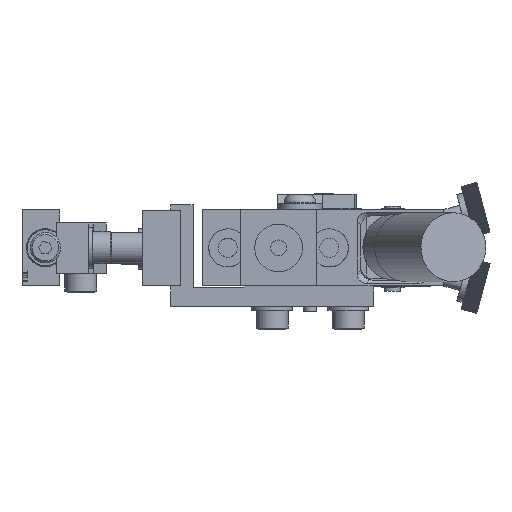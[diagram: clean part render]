
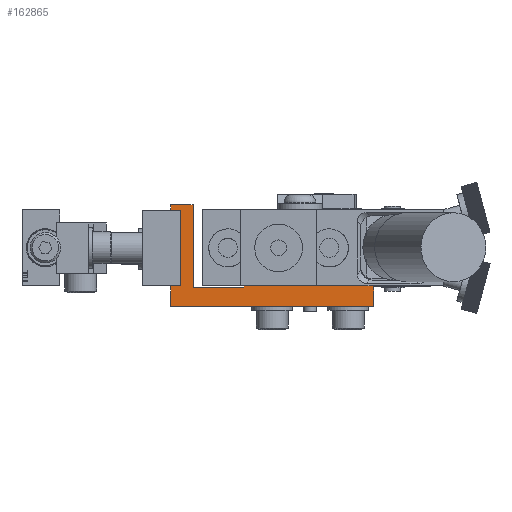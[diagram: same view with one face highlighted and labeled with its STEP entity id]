
A CAD part, left-side view. The second image highlights one B-rep face of the part: STEP entity #162865.
In plain terms, the highlighted planar face has unit normal (-1, 0, 0).
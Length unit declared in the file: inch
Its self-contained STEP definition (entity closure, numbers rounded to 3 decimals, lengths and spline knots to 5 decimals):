
#6700=CARTESIAN_POINT('',(-0.4995,1.8755,0.));
#6701=VERTEX_POINT('',#6700);
#6767=CARTESIAN_POINT('',(-0.4995,1.8755,0.745));
#6768=VERTEX_POINT('',#6767);
#7459=CARTESIAN_POINT('',(-0.4995,1.8755,0.));
#7460=DIRECTION('',(0.0,0.0,1.0));
#7461=VECTOR('',#7460,0.745);
#7462=LINE('',#7459,#7461);
#7463=EDGE_CURVE('',#6701,#6768,#7462,.T.);
#162415=CARTESIAN_POINT('',(-0.4995,1.1555,0.));
#162416=VERTEX_POINT('',#162415);
#162423=CARTESIAN_POINT('',(-0.4995,-0.1245,0.));
#162424=VERTEX_POINT('',#162423);
#162425=CARTESIAN_POINT('',(-0.4995,1.1555,0.));
#162426=DIRECTION('',(0.0,-1.0,0.0));
#162427=VECTOR('',#162426,1.28);
#162428=LINE('',#162425,#162427);
#162429=EDGE_CURVE('',#162416,#162424,#162428,.T.);
#162796=CARTESIAN_POINT('',(-0.4995,0.76361,-0.10189));
#162797=DIRECTION('',(1.0,0.0,0.0));
#162798=DIRECTION('',(0.0,-1.0,0.0));
#162799=AXIS2_PLACEMENT_3D('',#162796,#162797,#162798);
#162800=PLANE('',#162799);
#162801=CARTESIAN_POINT('',(-0.4995,1.8755,-0.2));
#162802=VERTEX_POINT('',#162801);
#162803=CARTESIAN_POINT('',(-0.4995,-0.1245,-0.2));
#162804=VERTEX_POINT('',#162803);
#162805=CARTESIAN_POINT('',(-0.4995,1.8755,-0.2));
#162806=DIRECTION('',(0.0,-1.0,0.0));
#162807=VECTOR('',#162806,2.);
#162808=LINE('',#162805,#162807);
#162809=EDGE_CURVE('',#162802,#162804,#162808,.T.);
#162810=ORIENTED_EDGE('',*,*,#162809,.T.);
#162811=CARTESIAN_POINT('',(-0.4995,-0.1245,-0.2));
#162812=DIRECTION('',(0.0,0.0,1.0));
#162813=VECTOR('',#162812,0.2);
#162814=LINE('',#162811,#162813);
#162815=EDGE_CURVE('',#162804,#162424,#162814,.T.);
#162816=ORIENTED_EDGE('',*,*,#162815,.T.);
#162817=ORIENTED_EDGE('',*,*,#162429,.F.);
#162818=CARTESIAN_POINT('',(-0.4995,1.1555,-0.015));
#162819=VERTEX_POINT('',#162818);
#162820=CARTESIAN_POINT('',(-0.4995,1.1555,0.));
#162821=DIRECTION('',(0.0,0.0,-1.0));
#162822=VECTOR('',#162821,0.015);
#162823=LINE('',#162820,#162822);
#162824=EDGE_CURVE('',#162416,#162819,#162823,.T.);
#162825=ORIENTED_EDGE('',*,*,#162824,.T.);
#162826=CARTESIAN_POINT('',(-0.4995,1.6555,-0.015));
#162827=VERTEX_POINT('',#162826);
#162828=CARTESIAN_POINT('',(-0.4995,1.1555,-0.015));
#162829=DIRECTION('',(0.0,1.0,0.0));
#162830=VECTOR('',#162829,0.5);
#162831=LINE('',#162828,#162830);
#162832=EDGE_CURVE('',#162819,#162827,#162831,.T.);
#162833=ORIENTED_EDGE('',*,*,#162832,.T.);
#162834=CARTESIAN_POINT('',(-0.4995,1.6555,0.8));
#162835=VERTEX_POINT('',#162834);
#162836=CARTESIAN_POINT('',(-0.4995,1.6555,-0.015));
#162837=DIRECTION('',(0.0,0.0,1.0));
#162838=VECTOR('',#162837,0.815);
#162839=LINE('',#162836,#162838);
#162840=EDGE_CURVE('',#162827,#162835,#162839,.T.);
#162841=ORIENTED_EDGE('',*,*,#162840,.T.);
#162842=CARTESIAN_POINT('',(-0.4995,1.8755,0.8));
#162843=VERTEX_POINT('',#162842);
#162844=CARTESIAN_POINT('',(-0.4995,1.6555,0.8));
#162845=DIRECTION('',(0.0,1.0,0.0));
#162846=VECTOR('',#162845,0.22);
#162847=LINE('',#162844,#162846);
#162848=EDGE_CURVE('',#162835,#162843,#162847,.T.);
#162849=ORIENTED_EDGE('',*,*,#162848,.T.);
#162850=CARTESIAN_POINT('',(-0.4995,1.8755,0.8));
#162851=DIRECTION('',(0.0,0.0,-1.0));
#162852=VECTOR('',#162851,0.055);
#162853=LINE('',#162850,#162852);
#162854=EDGE_CURVE('',#162843,#6768,#162853,.T.);
#162855=ORIENTED_EDGE('',*,*,#162854,.T.);
#162856=ORIENTED_EDGE('',*,*,#7463,.F.);
#162857=CARTESIAN_POINT('',(-0.4995,1.8755,0.));
#162858=DIRECTION('',(0.0,0.0,-1.0));
#162859=VECTOR('',#162858,0.2);
#162860=LINE('',#162857,#162859);
#162861=EDGE_CURVE('',#6701,#162802,#162860,.T.);
#162862=ORIENTED_EDGE('',*,*,#162861,.T.);
#162863=EDGE_LOOP('',(#162810,#162816,#162817,#162825,#162833,#162841,#162849,#162855,#162856,#162862));
#162864=FACE_OUTER_BOUND('',#162863,.T.);
#162865=ADVANCED_FACE('',(#162864),#162800,.F.);
